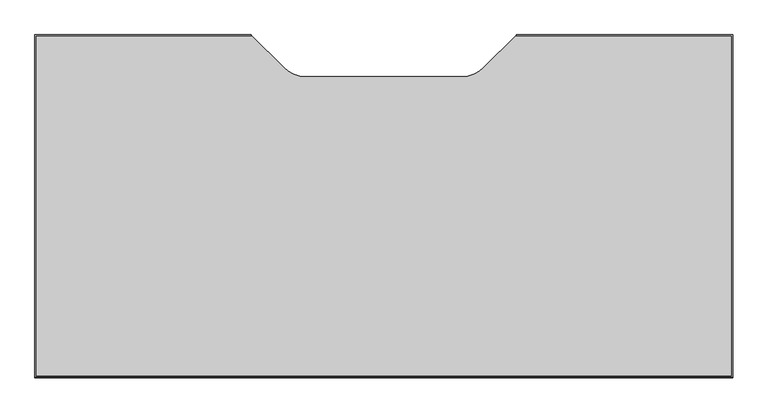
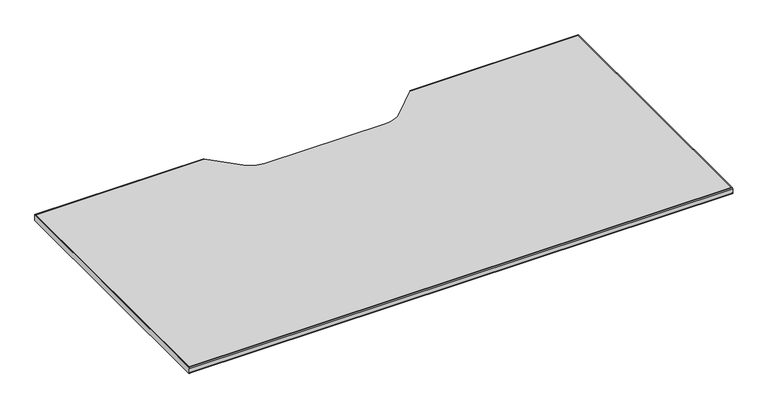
"""IFC4 building model written with IfcOpenShell, lengths in millimetres: furniture geometry, Steelcase Turnstone - Bivi - Table - Table Top : 24D x 48W."""

from ifc_helpers import new_model, si_unit, point, frame, frame_2d, origin, place, context, project, spatial, polyline, circle_curve, trimmed, segment, composite_curve, outline, extrude, source, transform, mapped, element, save
from ifc_brep_helpers import plane_surface, cylinder_surface, advanced_brep


def furniture_0e55591c(model_context):
    return source(origin(), model_context, "Body", "SolidModel", [
        advanced_brep(
        [(514.3499939, 727.0750061, 723.566625), (515.3499939, 726.0750061, 723.566625), (515.3499939, 726.0750061, 710.485625), (514.3499939, 727.0750061, 710.485625), (957.8500067, 726.0750061, 723.566625), (958.8500061, 727.0750061, 723.566625), (958.8500061, 727.0750061, 710.485625), (957.8500067, 726.0750061, 710.485625), (1320.8, 727.0750061, 723.566625), (1319.8, 726.0750061, 723.566625), (1319.8, 155.2730061, 723.566625), (153.4, 155.2730061, 723.566625), (153.4, 726.0750061, 723.566625), (152.4, 727.0750061, 723.566625), (152.4, 154.3050061, 723.566625), (1320.8, 154.3050061, 723.566625), (1319.8, 726.0750061, 710.485625), (1319.8, 155.2730061, 710.485625), (1320.8, 727.0750061, 710.485625), (1320.8, 154.3050061, 710.485625), (152.4, 154.3050061, 710.485625), (152.4, 727.0750061, 710.485625), (153.4, 726.0750061, 710.485625), (153.4, 155.2730061, 710.485625), (1320.8, 152.2730061, 721.534625), (1320.8, 152.2730061, 712.517625), (152.4, 152.2730061, 712.517625), (152.4, 152.2730061, 721.534625)],
        [
            (0, 1),
            (1, 2),
            (2, 3),
            (3, 0),
            (4, 5),
            (5, 6),
            (6, 7),
            (7, 4),
            (8, 5),
            (4, 9),
            (9, 10),
            (10, 11),
            (11, 12),
            (12, 1),
            (0, 13),
            (13, 14),
            (14, 15),
            (15, 8),
            (9, 16),
            (16, 17),
            (17, 10),
            (16, 7),
            (6, 18),
            (18, 19),
            (19, 20),
            (20, 21),
            (21, 3),
            (2, 22),
            (22, 23),
            (23, 17),
            (15, 24, circle_curve(frame((1320.8, 154.3050061, 721.534625), z_axis=(1.0, 0.0, 0.0), x_axis=(0.0, 1.0, 0.0)), 2.032)),
            (24, 25),
            (25, 19, circle_curve(frame((1320.8, 154.3050061, 712.517625), z_axis=(1.0, 0.0, 0.0), x_axis=(0.0, 1.0, 0.0)), 2.032)),
            (18, 8),
            (12, 22),
            (21, 13),
            (11, 23),
            (20, 26, circle_curve(frame((152.4, 154.3050061, 712.517625), z_axis=(-1.0, 0.0, 0.0), x_axis=(0.0, 1.0, 0.0)), 2.032)),
            (26, 27),
            (27, 14, circle_curve(frame((152.4, 154.3050061, 721.534625), z_axis=(-1.0, 0.0, 0.0), x_axis=(0.0, 1.0, 0.0)), 2.032)),
            (25, 26),
            (24, 27),
        ],
        [
            plane_surface(frame((514.3499939, 727.0750061, 724.4389999), z_axis=(0.7071067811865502, 0.7071067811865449, 0.0), x_axis=(0.0, 0.0, -1.0))),
            plane_surface(frame((904.6973766, 672.9223408, 724.4389999), z_axis=(-0.7071070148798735, 0.7071065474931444, 0.0), x_axis=(0.0, 0.0, -1.0))),
            plane_surface(frame((1320.8, 155.2730061, 723.566625), z_axis=(0.0, 0.0, 1.0), x_axis=(0.0, 1.0, 0.0))),
            plane_surface(frame((1319.8, 155.2730061, 723.566625), z_axis=(-1.0, 0.0, 0.0), x_axis=(0.0, 1.0, 0.0))),
            plane_surface(frame((1319.8, 155.2730061, 710.485625), z_axis=(0.0, 0.0, -1.0), x_axis=(0.0, 1.0, 0.0))),
            plane_surface(frame((1320.8, 155.2730061, 710.485625), z_axis=(1.0, 0.0, 0.0), x_axis=(0.0, 1.0, 0.0))),
            plane_surface(frame((1319.8, 726.0750061, 723.566625), z_axis=(0.0, -1.0, 0.0), x_axis=(-1.0, 0.0, 0.0))),
            plane_surface(frame((1320.8, 727.0750061, 710.485625), z_axis=(0.0, 1.0, 0.0), x_axis=(-1.0, 0.0, 0.0))),
            plane_surface(frame((153.4, 726.0750061, 723.566625), z_axis=(1.0, 0.0, 0.0), x_axis=(0.0, -1.0, 0.0))),
            plane_surface(frame((152.4, 727.0750061, 710.485625), z_axis=(-1.0, 0.0, 0.0), x_axis=(0.0, -1.0, 0.0))),
            cylinder_surface(frame((152.4, 154.3050061, 712.517625), z_axis=(-1.0, 0.0, 0.0), x_axis=(0.0, 1.0, 0.0)), 2.032),
            plane_surface(frame((152.4, 152.2730061, 712.517625), z_axis=(0.0, -1.0, 0.0), x_axis=(1.0, 0.0, 0.0))),
            cylinder_surface(frame((152.4, 154.3050061, 721.534625), z_axis=(-1.0, 0.0, 0.0), x_axis=(0.0, 1.0, 0.0)), 2.032),
            plane_surface(frame((152.4, 155.2730061, 723.566625), z_axis=(0.0, 1.0, 0.0), x_axis=(1.0, 0.0, 0.0))),
        ],
        [
            (0, [[1, 2, 3, 4]]),
            (1, [[5, 6, 7, 8]]),
            (2, [[9, -5, 10, 11, 12, 13, 14, -1, 15, 16, 17, 18]]),
            (3, [[-11, 19, 20, 21]]),
            (4, [[-20, 22, -7, 23, 24, 25, 26, 27, -3, 28, 29, 30]]),
            (5, [[-18, 31, 32, 33, -24, 34]]),
            (6, [[-19, -10, -8, -22]]),
            (6, [[35, -28, -2, -14]]),
            (7, [[-34, -23, -6, -9]]),
            (7, [[36, -15, -4, -27]]),
            (8, [[-13, 37, -29, -35]]),
            (9, [[-16, -36, -26, 38, 39, 40]]),
            (10, [[-38, -25, -33, 41]]),
            (11, [[-39, -41, -32, 42]]),
            (12, [[-40, -42, -31, -17]]),
            (13, [[-30, -37, -12, -21]]),
        ],
    ),
        extrude(outline(composite_curve([segment(polyline([(1319.8, 726.0750061), (1319.8, 155.2730061), (153.4, 155.2730061), (153.4, 726.0750061), (515.3499939, 726.0750061), (568.512149, 672.912851)]), True, "CONTINUOUS"), segment(trimmed(circle_curve(frame_2d((606.3859497, 710.7866517)), 53.5616426), [point((568.512149, 672.912851))], [point((606.3859497, 657.2250091))], True, "CARTESIAN"), True, "CONTINUOUS"), segment(polyline([(606.3859497, 657.2250091), (866.8006832, 657.2250091)]), True, "CONTINUOUS"), segment(trimmed(circle_curve(frame_2d((866.8006832, 710.8190091)), 53.594), [point((866.8006832, 657.2250091))], [point((904.6973766, 672.9223408))], True, "CARTESIAN"), True, "CONTINUOUS"), segment(polyline([(904.6973766, 672.9223408), (957.8500067, 726.0750061), (1319.8, 726.0750061)]), True, "CONTINUOUS")], self_intersect=False)), frame((0.0, 0.0, 710.485625), z_axis=(0.0, 0.0, 1.0), x_axis=(1.0, 0.0, 0.0)), (0.0, 0.0, 1.0), 13.081),
    ])


if __name__ == "__main__":
    model = new_model("IFC4")
    model_context = context("Model", 3, world=origin())
    ifc_project = project(units=[si_unit("LENGTHUNIT", "METRE", prefix="MILLI")], contexts=[model_context])
    site = spatial("IfcSite", under=ifc_project)
    building = spatial("IfcBuilding", under=site)
    placement = place(None, origin())
    furniture_shape = furniture_0e55591c(model_context)
    element("IfcFurniture", 1, ObjectType="Steelcase Turnstone - Bivi - Table - Table Top : 24D x 48W", at=placement, inside=building, context=model_context, shape_type="MappedRepresentation", body=[
        mapped(furniture_shape, transform((0.0, 0.0, 0.0), x_axis=(1.0, 0.0, 0.0), y_axis=(0.0, 1.0, 0.0), z_axis=(0.0, 0.0, 1.0))),
    ])
    save(model, "model.ifc")
